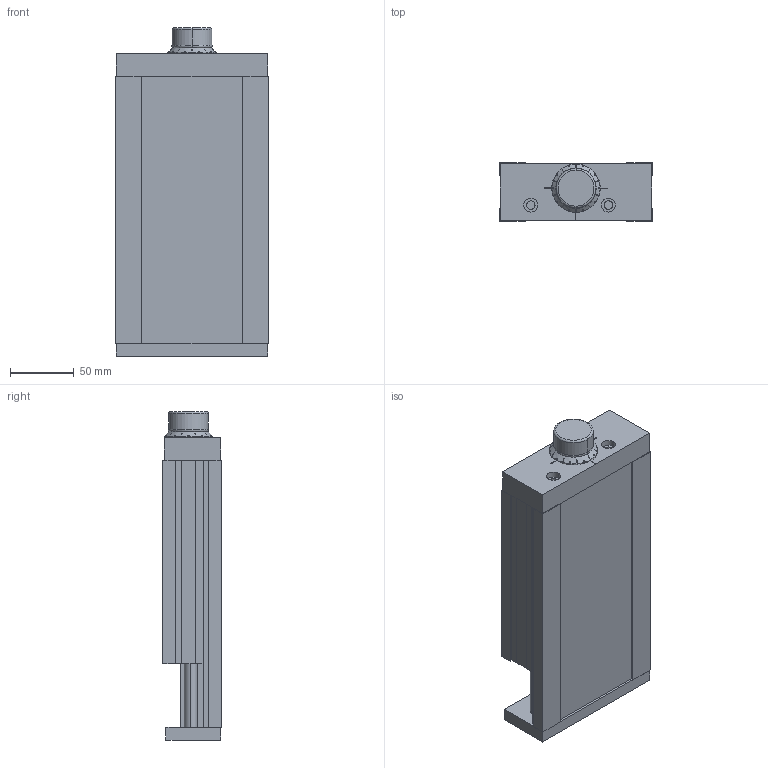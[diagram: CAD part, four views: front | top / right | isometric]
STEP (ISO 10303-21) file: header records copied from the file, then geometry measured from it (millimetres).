
FILE_DESCRIPTION (( 'STEP AP203' ), '1' );
FILE_NAME ('domiLINE 120.STEP', '2002-07-08T13:08:41', ( '' ), ( '' ), 'SwSTEP 2.0', 'SolidWorks 2002127', '' );
FILE_SCHEMA (( 'CONFIG_CONTROL_DESIGN' ));
Length unit declared in the file: millimetre
Products named in the file (3): domiLINE 120; Aussenteil neu 120 light-+-D005509_ _Standard; dL 120 light-+-D013323_ _Hub50
Assembly tree (2 placements, depth 2):
  domiLINE 120
    Aussenteil neu 120 light-+-D005509_ _Standard
    dL 120 light-+-D013323_ _Hub50
Bounding box: 120 x 46 x 258.25 mm (x, y, z)
Volume: 1023153 mm3; surface area: 191230.2 mm2
Topology: 2 solids, 3 shells, 262 faces, 703 edges, 464 vertices
Faces by surface type: plane 156, cylinder 59, cone 23, bspline 20, torus 4
Entity records: 9051 total; most frequent: CARTESIAN_POINT 2336, ORIENTED_EDGE 1406, DIRECTION 1222, EDGE_CURVE 703, VERTEX_POINT 464, LINE 450, VECTOR 450, AXIS2_PLACEMENT_3D 386
